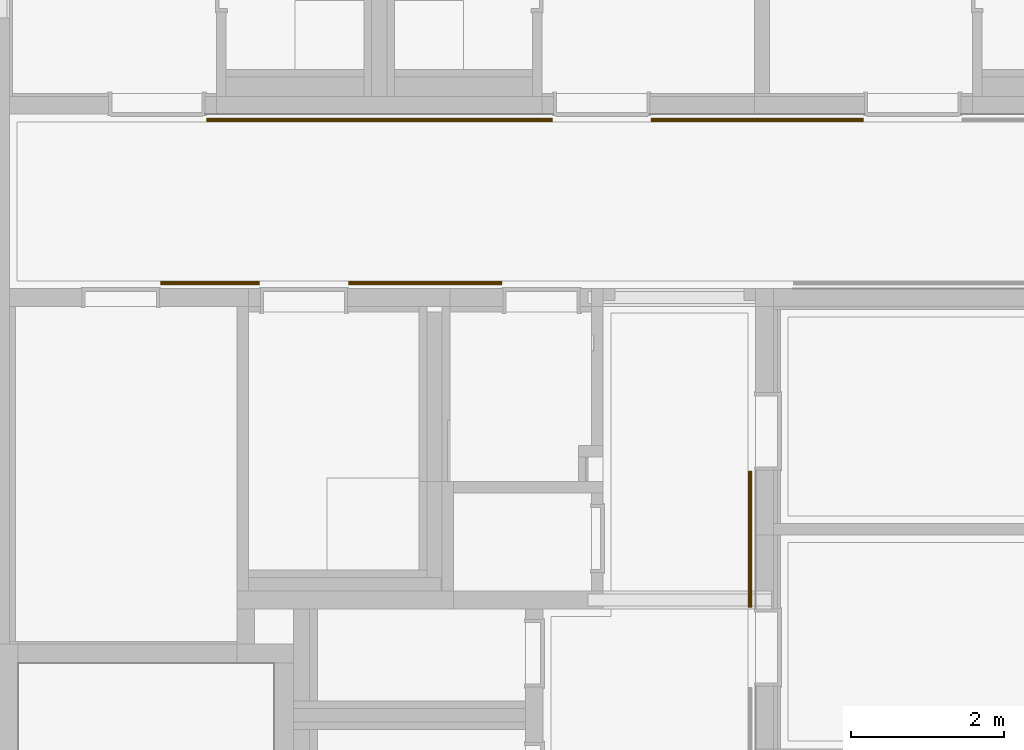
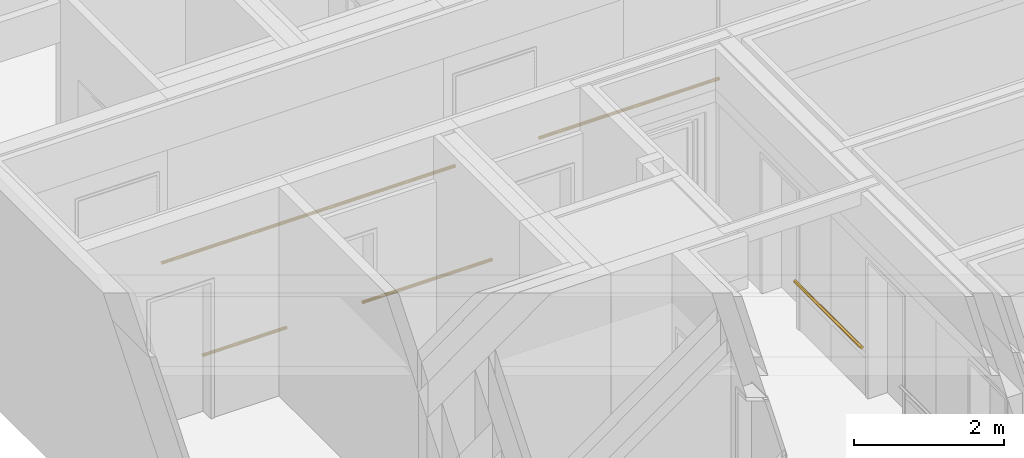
# One storey, part 194 of 207: 5 railings, 5 elements without a shape of their own.
"""IFC4 building model written with IfcOpenShell, lengths in metres."""

from ifc_helpers import new_model, entity, si_unit, converted_unit, derived_unit, frame, origin, place, context, subcontext, project, spatial, faceted_brep, material, element, aggregate, save


model = new_model("IFC4")

# Units and contexts
model_context = context("Model", 3, precision=1e-05, world=origin())
body_context = subcontext(model_context, "Body", "Model", "MODEL_VIEW")
ifc_project = project(units=[si_unit("LENGTHUNIT", "METRE"), si_unit("AREAUNIT", "SQUARE_METRE"), si_unit("VOLUMEUNIT", "CUBIC_METRE"), si_unit("MASSUNIT", "GRAM", prefix="KILO"), converted_unit("PLANEANGLEUNIT", "DEGREE", entity("IfcPlaneAngleMeasure", 0.0174532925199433), si_unit("PLANEANGLEUNIT", "RADIAN"), dimensions=[0, 0, 0, 0, 0, 0, 0]), derived_unit("THERMALTRANSMITTANCEUNIT", [(si_unit("POWERUNIT", "WATT"), 1), (si_unit("THERMODYNAMICTEMPERATUREUNIT", "KELVIN"), -1), (si_unit("LENGTHUNIT", "METRE"), -2)]), derived_unit("VOLUMETRICFLOWRATEUNIT", [(si_unit("LENGTHUNIT", "METRE"), 3), (converted_unit("TIMEUNIT", "hour", entity("IfcTimeMeasure", 3600.0), si_unit("TIMEUNIT", "SECOND"), dimensions=[0, 0, 1, 0, 0, 0, 0]), -1), (si_unit("LENGTHUNIT", "METRE"), -1)])], contexts=[model_context])

# Site, building, storey
site_placement = place(None, origin())
site = spatial("IfcSite", under=ifc_project, at=site_placement, Name="Psychiatrie Neubau Wunstorf", CompositionType="ELEMENT")
building_placement = place(site_placement, origin())
building = spatial("IfcBuilding", under=site, at=building_placement, Name="Neubau H2 Stationsgebäude", CompositionType="ELEMENT")
storey_placement = place(building_placement, frame((0.0, 0.0, -0.2)))
storey = spatial("IfcBuildingStorey", under=building, at=storey_placement, Name="H2 Ebene 0", CompositionType="ELEMENT", Elevation=-0.2)

# Assembly, railing
assembly_1_placement = place(storey_placement, frame((0.0, 0.0, 0.2)))
assembly_1 = element("IfcElementAssembly", 1, at=assembly_1_placement, inside=storey, Name="Geländer+Abstand", PredefinedType="NOTDEFINED")
ifc_material_1 = material(Name="Holz")
railing_1_placement = place(assembly_1_placement, frame((9.81750002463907, 17.6690132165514, 0.8)))
railing_1 = element("IfcRailing", 2, at=railing_1_placement, material=ifc_material_1, context=body_context, shape_type="Brep", body=[
    faceted_brep([(0.025, 1.78398678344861, 0.000103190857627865), (0.0293232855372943, 1.78398678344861, 0.000481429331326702), (0.0335152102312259, 1.78398678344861, 0.00160465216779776), (0.0374484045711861, 1.78398678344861, 0.00343873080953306), (0.0410033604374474, 1.78398678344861, 0.00592793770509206), (0.0440720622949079, 1.78398678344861, 0.00899663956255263), (0.0465612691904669, 1.78398678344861, 0.0125515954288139), (0.0483953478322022, 1.78398678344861, 0.0164847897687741), (0.0495185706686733, 1.78398678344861, 0.0206767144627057), (0.0498968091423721, 1.78398678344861, 0.025), (0.0495185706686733, 1.78398678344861, 0.0293232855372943), (0.0483953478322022, 1.78398678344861, 0.0335152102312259), (0.0465612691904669, 1.78398678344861, 0.0374484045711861), (0.0440720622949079, 1.78398678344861, 0.0410033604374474), (0.0410033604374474, 1.78398678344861, 0.0440720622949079), (0.0374484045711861, 1.78398678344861, 0.0465612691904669), (0.0335152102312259, 1.78398678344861, 0.0483953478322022), (0.0293232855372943, 1.78398678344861, 0.0495185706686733), (0.025, 1.78398678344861, 0.0498968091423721), (0.0206767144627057, 1.78398678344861, 0.0495185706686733), (0.0164847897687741, 1.78398678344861, 0.0483953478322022), (0.0125515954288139, 1.78398678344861, 0.0465612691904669), (0.00899663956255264, 1.78398678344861, 0.044072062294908), (0.00592793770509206, 1.78398678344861, 0.0410033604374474), (0.00343873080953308, 1.78398678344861, 0.0374484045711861), (0.00160465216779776, 1.78398678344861, 0.0335152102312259), (0.000481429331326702, 1.78398678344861, 0.0293232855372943), (0.000103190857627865, 1.78398678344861, 0.025), (0.000481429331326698, 1.78398678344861, 0.0206767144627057), (0.00160465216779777, 1.78398678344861, 0.0164847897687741), (0.00343873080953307, 1.78398678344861, 0.0125515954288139), (0.00592793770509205, 1.78398678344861, 0.00899663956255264), (0.00899663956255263, 1.78398678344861, 0.00592793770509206), (0.0125515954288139, 1.78398678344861, 0.00343873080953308), (0.0164847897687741, 1.78398678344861, 0.00160465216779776), (0.0206767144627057, 1.78398678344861, 0.000481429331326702), (0.025, 0.0, 0.000103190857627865), (0.0206767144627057, 0.0, 0.000481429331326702), (0.0164847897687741, 0.0, 0.00160465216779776), (0.0125515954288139, 0.0, 0.00343873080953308), (0.00899663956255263, 0.0, 0.00592793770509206), (0.00592793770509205, 0.0, 0.00899663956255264), (0.00343873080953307, 0.0, 0.0125515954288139), (0.00160465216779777, 0.0, 0.0164847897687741), (0.000481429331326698, 0.0, 0.0206767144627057), (0.000103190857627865, 0.0, 0.025), (0.000481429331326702, 0.0, 0.0293232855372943), (0.00160465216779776, 0.0, 0.0335152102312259), (0.00343873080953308, 0.0, 0.0374484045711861), (0.00592793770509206, 0.0, 0.0410033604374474), (0.00899663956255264, 0.0, 0.044072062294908), (0.0125515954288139, 0.0, 0.0465612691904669), (0.0164847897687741, 0.0, 0.0483953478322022), (0.0206767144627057, 0.0, 0.0495185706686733), (0.025, 0.0, 0.0498968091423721), (0.0293232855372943, 0.0, 0.0495185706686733), (0.0335152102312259, 0.0, 0.0483953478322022), (0.0374484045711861, 0.0, 0.0465612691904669), (0.0410033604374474, 0.0, 0.0440720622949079), (0.0440720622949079, 0.0, 0.0410033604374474), (0.0465612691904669, 0.0, 0.0374484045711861), (0.0483953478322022, 0.0, 0.0335152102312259), (0.0495185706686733, 0.0, 0.0293232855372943), (0.0498968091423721, 0.0, 0.025), (0.0495185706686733, 0.0, 0.0206767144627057), (0.0483953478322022, 0.0, 0.0164847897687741), (0.0465612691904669, 0.0, 0.0125515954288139), (0.0440720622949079, 0.0, 0.00899663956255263), (0.0410033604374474, 0.0, 0.00592793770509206), (0.0374484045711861, 0.0, 0.00343873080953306), (0.0335152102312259, 0.0, 0.00160465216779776), (0.0293232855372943, 0.0, 0.000481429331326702)], [[[0, 1, 2, 3, 4, 5, 6, 7, 8, 9, 10, 11, 12, 13, 14, 15, 16, 17, 18, 19, 20, 21, 22, 23, 24, 25, 26, 27, 28, 29, 30, 31, 32, 33, 34, 35]], [[36, 37, 38, 39, 40, 41, 42, 43, 44, 45, 46, 47, 48, 49, 50, 51, 52, 53, 54, 55, 56, 57, 58, 59, 60, 61, 62, 63, 64, 65, 66, 67, 68, 69, 70, 71]], [[1, 0, 36, 71]], [[2, 1, 71, 70]], [[3, 2, 70, 69]], [[4, 3, 69, 68]], [[5, 4, 68, 67]], [[6, 5, 67, 66]], [[7, 6, 66, 65]], [[8, 7, 65, 64]], [[9, 8, 64, 63]], [[10, 9, 63, 62]], [[11, 10, 62, 61]], [[12, 11, 61, 60]], [[13, 12, 60, 59]], [[14, 13, 59, 58]], [[15, 14, 58, 57]], [[16, 15, 57, 56]], [[17, 16, 56, 55]], [[18, 17, 55, 54]], [[19, 18, 54, 53]], [[20, 19, 53, 52]], [[21, 20, 52, 51]], [[22, 21, 51, 50]], [[23, 22, 50, 49]], [[24, 23, 49, 48]], [[25, 24, 48, 47]], [[26, 25, 47, 46]], [[27, 26, 46, 45]], [[28, 27, 45, 44]], [[29, 28, 44, 43]], [[30, 29, 43, 42]], [[31, 30, 42, 41]], [[32, 31, 41, 40]], [[33, 32, 40, 39]], [[34, 33, 39, 38]], [[35, 34, 38, 37]], [[0, 35, 37, 36]]], orient=[[False], [False], [False], [False], [False], [False], [False], [False], [False], [False], [False], [False], [False], [False], [False], [False], [False], [False], [False], [False], [False], [False], [False], [False], [False], [False], [False], [False], [False], [False], [False], [False], [False], [False], [False], [False], [False], [False]]),
])
aggregate(assembly_1, [railing_1])

assembly_2_placement = place(storey_placement, frame((0.0, 0.0, 0.2)))
assembly_2 = element("IfcElementAssembly", 3, at=assembly_2_placement, inside=storey, Name="Geländer+Abstand", PredefinedType="NOTDEFINED")
ifc_material_2 = material(Name="Holz")
railing_2_placement = place(assembly_2_placement, frame((2.74, 24.0175, 0.8)))
railing_2 = element("IfcRailing", 4, at=railing_2_placement, material=ifc_material_2, context=body_context, shape_type="Brep", body=[
    faceted_brep([(0.0, 0.0249999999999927, 0.000103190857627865), (0.0, 0.029323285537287, 0.000481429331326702), (0.0, 0.0335152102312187, 0.00160465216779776), (0.0, 0.0374484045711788, 0.00343873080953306), (0.0, 0.0410033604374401, 0.00592793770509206), (0.0, 0.0440720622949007, 0.00899663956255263), (0.0, 0.0465612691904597, 0.0125515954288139), (0.0, 0.048395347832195, 0.0164847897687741), (0.0, 0.049518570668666, 0.0206767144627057), (0.0, 0.0498968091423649, 0.025), (0.0, 0.049518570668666, 0.0293232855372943), (0.0, 0.048395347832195, 0.0335152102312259), (0.0, 0.0465612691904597, 0.0374484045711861), (0.0, 0.0440720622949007, 0.0410033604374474), (0.0, 0.0410033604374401, 0.0440720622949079), (0.0, 0.0374484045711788, 0.0465612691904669), (0.0, 0.0335152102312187, 0.0483953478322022), (0.0, 0.029323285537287, 0.0495185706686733), (0.0, 0.0249999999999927, 0.0498968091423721), (0.0, 0.0206767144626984, 0.0495185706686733), (0.0, 0.0164847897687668, 0.0483953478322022), (0.0, 0.0125515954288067, 0.0465612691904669), (0.0, 0.00899663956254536, 0.044072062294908), (0.0, 0.00592793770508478, 0.0410033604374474), (0.0, 0.0034387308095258, 0.0374484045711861), (0.0, 0.00160465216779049, 0.0335152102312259), (0.0, 0.000481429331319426, 0.0293232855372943), (0.0, 0.000103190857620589, 0.025), (0.0, 0.000481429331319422, 0.0206767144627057), (0.0, 0.00160465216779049, 0.0164847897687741), (0.0, 0.0034387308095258, 0.0125515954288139), (0.0, 0.00592793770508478, 0.00899663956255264), (0.0, 0.00899663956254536, 0.00592793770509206), (0.0, 0.0125515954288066, 0.00343873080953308), (0.0, 0.0164847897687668, 0.00160465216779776), (0.0, 0.0206767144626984, 0.000481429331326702), (4.52, 0.0249999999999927, 0.000103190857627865), (4.52, 0.0206767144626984, 0.000481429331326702), (4.52, 0.0164847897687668, 0.00160465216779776), (4.52, 0.0125515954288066, 0.00343873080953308), (4.52, 0.00899663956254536, 0.00592793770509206), (4.52, 0.00592793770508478, 0.00899663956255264), (4.52, 0.0034387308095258, 0.0125515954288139), (4.52, 0.00160465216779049, 0.0164847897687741), (4.52, 0.000481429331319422, 0.0206767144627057), (4.52, 0.000103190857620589, 0.025), (4.52, 0.000481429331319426, 0.0293232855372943), (4.52, 0.00160465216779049, 0.0335152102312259), (4.52, 0.0034387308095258, 0.0374484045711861), (4.52, 0.00592793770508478, 0.0410033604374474), (4.52, 0.00899663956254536, 0.044072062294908), (4.52, 0.0125515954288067, 0.0465612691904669), (4.52, 0.0164847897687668, 0.0483953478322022), (4.52, 0.0206767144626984, 0.0495185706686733), (4.52, 0.0249999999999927, 0.0498968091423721), (4.52, 0.029323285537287, 0.0495185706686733), (4.52, 0.0335152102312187, 0.0483953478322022), (4.52, 0.0374484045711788, 0.0465612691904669), (4.52, 0.0410033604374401, 0.0440720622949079), (4.52, 0.0440720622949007, 0.0410033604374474), (4.52, 0.0465612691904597, 0.0374484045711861), (4.52, 0.048395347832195, 0.0335152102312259), (4.52, 0.049518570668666, 0.0293232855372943), (4.52, 0.0498968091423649, 0.025), (4.52, 0.049518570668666, 0.0206767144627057), (4.52, 0.048395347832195, 0.0164847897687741), (4.52, 0.0465612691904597, 0.0125515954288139), (4.52, 0.0440720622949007, 0.00899663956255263), (4.52, 0.0410033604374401, 0.00592793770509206), (4.52, 0.0374484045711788, 0.00343873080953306), (4.52, 0.0335152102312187, 0.00160465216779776), (4.52, 0.029323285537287, 0.000481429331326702)], [[[0, 1, 2, 3, 4, 5, 6, 7, 8, 9, 10, 11, 12, 13, 14, 15, 16, 17, 18, 19, 20, 21, 22, 23, 24, 25, 26, 27, 28, 29, 30, 31, 32, 33, 34, 35]], [[36, 37, 38, 39, 40, 41, 42, 43, 44, 45, 46, 47, 48, 49, 50, 51, 52, 53, 54, 55, 56, 57, 58, 59, 60, 61, 62, 63, 64, 65, 66, 67, 68, 69, 70, 71]], [[1, 0, 36, 71]], [[2, 1, 71, 70]], [[3, 2, 70, 69]], [[4, 3, 69, 68]], [[5, 4, 68, 67]], [[6, 5, 67, 66]], [[7, 6, 66, 65]], [[8, 7, 65, 64]], [[9, 8, 64, 63]], [[10, 9, 63, 62]], [[11, 10, 62, 61]], [[12, 11, 61, 60]], [[13, 12, 60, 59]], [[14, 13, 59, 58]], [[15, 14, 58, 57]], [[16, 15, 57, 56]], [[17, 16, 56, 55]], [[18, 17, 55, 54]], [[19, 18, 54, 53]], [[20, 19, 53, 52]], [[21, 20, 52, 51]], [[22, 21, 51, 50]], [[23, 22, 50, 49]], [[24, 23, 49, 48]], [[25, 24, 48, 47]], [[26, 25, 47, 46]], [[27, 26, 46, 45]], [[28, 27, 45, 44]], [[29, 28, 44, 43]], [[30, 29, 43, 42]], [[31, 30, 42, 41]], [[32, 31, 41, 40]], [[33, 32, 40, 39]], [[34, 33, 39, 38]], [[35, 34, 38, 37]], [[0, 35, 37, 36]]], orient=[[False], [False], [False], [False], [False], [False], [False], [False], [False], [False], [False], [False], [False], [False], [False], [False], [False], [False], [False], [False], [False], [False], [False], [False], [False], [False], [False], [False], [False], [False], [False], [False], [False], [False], [False], [False], [False], [False]]),
])
aggregate(assembly_2, [railing_2])

assembly_3_placement = place(storey_placement, frame((0.0, 0.0, 0.2)))
assembly_3 = element("IfcElementAssembly", 5, at=assembly_3_placement, inside=storey, Name="Geländer+Abstand", PredefinedType="NOTDEFINED")
ifc_material_3 = material(Name="Holz")
railing_3_placement = place(assembly_3_placement, frame((8.55, 24.0175, 0.8)))
railing_3 = element("IfcRailing", 6, at=railing_3_placement, material=ifc_material_3, context=body_context, shape_type="Brep", body=[
    faceted_brep([(0.0, 0.0249999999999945, 0.000103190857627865), (0.0, 0.0293232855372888, 0.000481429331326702), (0.0, 0.0335152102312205, 0.00160465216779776), (0.0, 0.0374484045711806, 0.00343873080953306), (0.0, 0.0410033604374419, 0.00592793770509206), (0.0, 0.0440720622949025, 0.00899663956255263), (0.0, 0.0465612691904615, 0.0125515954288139), (0.0, 0.0483953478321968, 0.0164847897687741), (0.0, 0.0495185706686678, 0.0206767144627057), (0.0, 0.0498968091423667, 0.025), (0.0, 0.0495185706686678, 0.0293232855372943), (0.0, 0.0483953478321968, 0.0335152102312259), (0.0, 0.0465612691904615, 0.0374484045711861), (0.0, 0.0440720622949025, 0.0410033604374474), (0.0, 0.0410033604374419, 0.0440720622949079), (0.0, 0.0374484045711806, 0.0465612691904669), (0.0, 0.0335152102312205, 0.0483953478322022), (0.0, 0.0293232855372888, 0.0495185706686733), (0.0, 0.0249999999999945, 0.0498968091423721), (0.0, 0.0206767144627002, 0.0495185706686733), (0.0, 0.0164847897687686, 0.0483953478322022), (0.0, 0.0125515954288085, 0.0465612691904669), (0.0, 0.00899663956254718, 0.044072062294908), (0.0, 0.0059279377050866, 0.0410033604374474), (0.0, 0.00343873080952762, 0.0374484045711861), (0.0, 0.00160465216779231, 0.0335152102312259), (0.0, 0.000481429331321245, 0.0293232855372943), (0.0, 0.000103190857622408, 0.025), (0.0, 0.000481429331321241, 0.0206767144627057), (0.0, 0.00160465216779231, 0.0164847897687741), (0.0, 0.00343873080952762, 0.0125515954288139), (0.0, 0.0059279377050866, 0.00899663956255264), (0.0, 0.00899663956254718, 0.00592793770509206), (0.0, 0.0125515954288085, 0.00343873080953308), (0.0, 0.0164847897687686, 0.00160465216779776), (0.0, 0.0206767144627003, 0.000481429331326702), (2.775, 0.0249999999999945, 0.000103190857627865), (2.775, 0.0206767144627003, 0.000481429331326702), (2.775, 0.0164847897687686, 0.00160465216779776), (2.775, 0.0125515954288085, 0.00343873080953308), (2.775, 0.00899663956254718, 0.00592793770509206), (2.775, 0.0059279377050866, 0.00899663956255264), (2.775, 0.00343873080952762, 0.0125515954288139), (2.775, 0.00160465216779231, 0.0164847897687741), (2.775, 0.000481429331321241, 0.0206767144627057), (2.775, 0.000103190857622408, 0.025), (2.775, 0.000481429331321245, 0.0293232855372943), (2.775, 0.00160465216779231, 0.0335152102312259), (2.775, 0.00343873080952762, 0.0374484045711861), (2.775, 0.0059279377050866, 0.0410033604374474), (2.775, 0.00899663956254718, 0.044072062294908), (2.775, 0.0125515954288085, 0.0465612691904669), (2.775, 0.0164847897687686, 0.0483953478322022), (2.775, 0.0206767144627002, 0.0495185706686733), (2.775, 0.0249999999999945, 0.0498968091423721), (2.775, 0.0293232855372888, 0.0495185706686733), (2.775, 0.0335152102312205, 0.0483953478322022), (2.775, 0.0374484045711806, 0.0465612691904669), (2.775, 0.0410033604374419, 0.0440720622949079), (2.775, 0.0440720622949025, 0.0410033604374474), (2.775, 0.0465612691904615, 0.0374484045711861), (2.775, 0.0483953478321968, 0.0335152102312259), (2.775, 0.0495185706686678, 0.0293232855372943), (2.775, 0.0498968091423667, 0.025), (2.775, 0.0495185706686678, 0.0206767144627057), (2.775, 0.0483953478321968, 0.0164847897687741), (2.775, 0.0465612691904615, 0.0125515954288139), (2.775, 0.0440720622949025, 0.00899663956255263), (2.775, 0.0410033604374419, 0.00592793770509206), (2.775, 0.0374484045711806, 0.00343873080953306), (2.775, 0.0335152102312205, 0.00160465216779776), (2.775, 0.0293232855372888, 0.000481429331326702)], [[[0, 1, 2, 3, 4, 5, 6, 7, 8, 9, 10, 11, 12, 13, 14, 15, 16, 17, 18, 19, 20, 21, 22, 23, 24, 25, 26, 27, 28, 29, 30, 31, 32, 33, 34, 35]], [[36, 37, 38, 39, 40, 41, 42, 43, 44, 45, 46, 47, 48, 49, 50, 51, 52, 53, 54, 55, 56, 57, 58, 59, 60, 61, 62, 63, 64, 65, 66, 67, 68, 69, 70, 71]], [[1, 0, 36, 71]], [[2, 1, 71, 70]], [[3, 2, 70, 69]], [[4, 3, 69, 68]], [[5, 4, 68, 67]], [[6, 5, 67, 66]], [[7, 6, 66, 65]], [[8, 7, 65, 64]], [[9, 8, 64, 63]], [[10, 9, 63, 62]], [[11, 10, 62, 61]], [[12, 11, 61, 60]], [[13, 12, 60, 59]], [[14, 13, 59, 58]], [[15, 14, 58, 57]], [[16, 15, 57, 56]], [[17, 16, 56, 55]], [[18, 17, 55, 54]], [[19, 18, 54, 53]], [[20, 19, 53, 52]], [[21, 20, 52, 51]], [[22, 21, 51, 50]], [[23, 22, 50, 49]], [[24, 23, 49, 48]], [[25, 24, 48, 47]], [[26, 25, 47, 46]], [[27, 26, 46, 45]], [[28, 27, 45, 44]], [[29, 28, 44, 43]], [[30, 29, 43, 42]], [[31, 30, 42, 41]], [[32, 31, 41, 40]], [[33, 32, 40, 39]], [[34, 33, 39, 38]], [[35, 34, 38, 37]], [[0, 35, 37, 36]]], orient=[[False], [False], [False], [False], [False], [False], [False], [False], [False], [False], [False], [False], [False], [False], [False], [False], [False], [False], [False], [False], [False], [False], [False], [False], [False], [False], [False], [False], [False], [False], [False], [False], [False], [False], [False], [False], [False], [False]]),
])
aggregate(assembly_3, [railing_3])

assembly_4_placement = place(storey_placement, frame((0.0, 0.0, 0.2)))
assembly_4 = element("IfcElementAssembly", 7, at=assembly_4_placement, inside=storey, Name="Geländer+Abstand", PredefinedType="NOTDEFINED")
ifc_material_4 = material(Name="Holz")
railing_4_placement = place(assembly_4_placement, frame((2.14245468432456, 21.886, 0.8)))
railing_4 = element("IfcRailing", 8, at=railing_4_placement, material=ifc_material_4, context=body_context, shape_type="Brep", body=[
    faceted_brep([(1.29255154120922, 0.025, 0.0498968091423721), (1.29255154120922, 0.0293232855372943, 0.0495185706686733), (1.29255154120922, 0.0335152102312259, 0.0483953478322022), (1.29255154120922, 0.0374484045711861, 0.0465612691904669), (1.29255154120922, 0.0410033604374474, 0.0440720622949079), (1.29255154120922, 0.0440720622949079, 0.0410033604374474), (1.29255154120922, 0.0465612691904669, 0.0374484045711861), (1.29255154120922, 0.0483953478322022, 0.0335152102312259), (1.29255154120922, 0.0495185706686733, 0.0293232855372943), (1.29255154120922, 0.0498968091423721, 0.025), (1.29255154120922, 0.0495185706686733, 0.0206767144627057), (1.29255154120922, 0.0483953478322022, 0.0164847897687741), (1.29255154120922, 0.0465612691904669, 0.0125515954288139), (1.29255154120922, 0.0440720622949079, 0.00899663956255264), (1.29255154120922, 0.0410033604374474, 0.00592793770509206), (1.29255154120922, 0.0374484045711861, 0.00343873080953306), (1.29255154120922, 0.0335152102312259, 0.00160465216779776), (1.29255154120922, 0.0293232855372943, 0.000481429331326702), (1.29255154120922, 0.025, 0.000103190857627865), (1.29255154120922, 0.0206767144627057, 0.000481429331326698), (1.29255154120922, 0.0164847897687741, 0.00160465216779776), (1.29255154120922, 0.0125515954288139, 0.00343873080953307), (1.29255154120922, 0.00899663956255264, 0.00592793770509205), (1.29255154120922, 0.00592793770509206, 0.00899663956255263), (1.29255154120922, 0.00343873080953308, 0.0125515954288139), (1.29255154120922, 0.00160465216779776, 0.0164847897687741), (1.29255154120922, 0.000481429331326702, 0.0206767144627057), (1.29255154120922, 0.000103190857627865, 0.025), (1.29255154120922, 0.000481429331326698, 0.0293232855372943), (1.29255154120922, 0.00160465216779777, 0.0335152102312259), (1.29255154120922, 0.00343873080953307, 0.0374484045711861), (1.29255154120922, 0.00592793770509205, 0.0410033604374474), (1.29255154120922, 0.00899663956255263, 0.0440720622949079), (1.29255154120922, 0.0125515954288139, 0.0465612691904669), (1.29255154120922, 0.0164847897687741, 0.0483953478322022), (1.29255154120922, 0.0206767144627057, 0.0495185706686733), (0.0, 0.025, 0.0498968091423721), (0.0, 0.0206767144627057, 0.0495185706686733), (0.0, 0.0164847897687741, 0.0483953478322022), (0.0, 0.0125515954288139, 0.0465612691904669), (0.0, 0.00899663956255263, 0.0440720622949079), (0.0, 0.00592793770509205, 0.0410033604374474), (0.0, 0.00343873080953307, 0.0374484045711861), (0.0, 0.00160465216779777, 0.0335152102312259), (0.0, 0.000481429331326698, 0.0293232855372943), (0.0, 0.000103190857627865, 0.025), (0.0, 0.000481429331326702, 0.0206767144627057), (0.0, 0.00160465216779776, 0.0164847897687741), (0.0, 0.00343873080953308, 0.0125515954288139), (0.0, 0.00592793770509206, 0.00899663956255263), (0.0, 0.00899663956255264, 0.00592793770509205), (0.0, 0.0125515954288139, 0.00343873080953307), (0.0, 0.0164847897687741, 0.00160465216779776), (0.0, 0.0206767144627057, 0.000481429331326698), (0.0, 0.025, 0.000103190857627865), (0.0, 0.0293232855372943, 0.000481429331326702), (0.0, 0.0335152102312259, 0.00160465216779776), (0.0, 0.0374484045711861, 0.00343873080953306), (0.0, 0.0410033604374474, 0.00592793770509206), (0.0, 0.0440720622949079, 0.00899663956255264), (0.0, 0.0465612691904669, 0.0125515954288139), (0.0, 0.0483953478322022, 0.0164847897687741), (0.0, 0.0495185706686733, 0.0206767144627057), (0.0, 0.0498968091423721, 0.025), (0.0, 0.0495185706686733, 0.0293232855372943), (0.0, 0.0483953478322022, 0.0335152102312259), (0.0, 0.0465612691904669, 0.0374484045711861), (0.0, 0.0440720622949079, 0.0410033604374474), (0.0, 0.0410033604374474, 0.0440720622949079), (0.0, 0.0374484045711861, 0.0465612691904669), (0.0, 0.0335152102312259, 0.0483953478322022), (0.0, 0.0293232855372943, 0.0495185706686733)], [[[0, 1, 2, 3, 4, 5, 6, 7, 8, 9, 10, 11, 12, 13, 14, 15, 16, 17, 18, 19, 20, 21, 22, 23, 24, 25, 26, 27, 28, 29, 30, 31, 32, 33, 34, 35]], [[36, 37, 38, 39, 40, 41, 42, 43, 44, 45, 46, 47, 48, 49, 50, 51, 52, 53, 54, 55, 56, 57, 58, 59, 60, 61, 62, 63, 64, 65, 66, 67, 68, 69, 70, 71]], [[1, 0, 36, 71]], [[2, 1, 71, 70]], [[3, 2, 70, 69]], [[4, 3, 69, 68]], [[5, 4, 68, 67]], [[6, 5, 67, 66]], [[7, 6, 66, 65]], [[8, 7, 65, 64]], [[9, 8, 64, 63]], [[10, 9, 63, 62]], [[11, 10, 62, 61]], [[12, 11, 61, 60]], [[13, 12, 60, 59]], [[14, 13, 59, 58]], [[15, 14, 58, 57]], [[16, 15, 57, 56]], [[17, 16, 56, 55]], [[18, 17, 55, 54]], [[19, 18, 54, 53]], [[20, 19, 53, 52]], [[21, 20, 52, 51]], [[22, 21, 51, 50]], [[23, 22, 50, 49]], [[24, 23, 49, 48]], [[25, 24, 48, 47]], [[26, 25, 47, 46]], [[27, 26, 46, 45]], [[28, 27, 45, 44]], [[29, 28, 44, 43]], [[30, 29, 43, 42]], [[31, 30, 42, 41]], [[32, 31, 41, 40]], [[33, 32, 40, 39]], [[34, 33, 39, 38]], [[35, 34, 38, 37]], [[0, 35, 37, 36]]], orient=[[False], [False], [False], [False], [False], [False], [False], [False], [False], [False], [False], [False], [False], [False], [False], [False], [False], [False], [False], [False], [False], [False], [False], [False], [False], [False], [False], [False], [False], [False], [False], [False], [False], [False], [False], [False], [False], [False]]),
])
aggregate(assembly_4, [railing_4])

assembly_5_placement = place(storey_placement, frame((0.0, 0.0, 0.2)))
assembly_5 = element("IfcElementAssembly", 9, at=assembly_5_placement, inside=storey, Name="Geländer+Abstand", PredefinedType="NOTDEFINED")
ifc_material_5 = material(Name="Holz")
railing_5_placement = place(assembly_5_placement, frame((4.60000622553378, 21.886, 0.8)))
railing_5 = element("IfcRailing", 10, at=railing_5_placement, material=ifc_material_5, context=body_context, shape_type="Brep", body=[
    faceted_brep([(1.99998727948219, 0.025, 0.0498968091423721), (1.99998727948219, 0.0293232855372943, 0.0495185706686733), (1.99998727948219, 0.0335152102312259, 0.0483953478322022), (1.99998727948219, 0.0374484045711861, 0.0465612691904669), (1.99998727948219, 0.0410033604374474, 0.0440720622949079), (1.99998727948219, 0.0440720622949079, 0.0410033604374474), (1.99998727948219, 0.0465612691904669, 0.0374484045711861), (1.99998727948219, 0.0483953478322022, 0.0335152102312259), (1.99998727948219, 0.0495185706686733, 0.0293232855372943), (1.99998727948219, 0.0498968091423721, 0.025), (1.99998727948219, 0.0495185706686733, 0.0206767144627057), (1.99998727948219, 0.0483953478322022, 0.0164847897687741), (1.99998727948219, 0.0465612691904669, 0.0125515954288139), (1.99998727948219, 0.0440720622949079, 0.00899663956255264), (1.99998727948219, 0.0410033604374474, 0.00592793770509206), (1.99998727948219, 0.0374484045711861, 0.00343873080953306), (1.99998727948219, 0.0335152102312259, 0.00160465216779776), (1.99998727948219, 0.0293232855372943, 0.000481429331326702), (1.99998727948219, 0.025, 0.000103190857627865), (1.99998727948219, 0.0206767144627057, 0.000481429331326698), (1.99998727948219, 0.0164847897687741, 0.00160465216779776), (1.99998727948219, 0.0125515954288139, 0.00343873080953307), (1.99998727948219, 0.00899663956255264, 0.00592793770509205), (1.99998727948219, 0.00592793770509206, 0.00899663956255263), (1.99998727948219, 0.00343873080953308, 0.0125515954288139), (1.99998727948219, 0.00160465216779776, 0.0164847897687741), (1.99998727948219, 0.000481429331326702, 0.0206767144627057), (1.99998727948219, 0.000103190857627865, 0.025), (1.99998727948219, 0.000481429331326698, 0.0293232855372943), (1.99998727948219, 0.00160465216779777, 0.0335152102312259), (1.99998727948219, 0.00343873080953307, 0.0374484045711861), (1.99998727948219, 0.00592793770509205, 0.0410033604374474), (1.99998727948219, 0.00899663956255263, 0.0440720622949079), (1.99998727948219, 0.0125515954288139, 0.0465612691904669), (1.99998727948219, 0.0164847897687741, 0.0483953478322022), (1.99998727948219, 0.0206767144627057, 0.0495185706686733), (0.0, 0.025, 0.0498968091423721), (0.0, 0.0206767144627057, 0.0495185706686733), (0.0, 0.0164847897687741, 0.0483953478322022), (0.0, 0.0125515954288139, 0.0465612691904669), (0.0, 0.00899663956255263, 0.0440720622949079), (0.0, 0.00592793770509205, 0.0410033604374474), (0.0, 0.00343873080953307, 0.0374484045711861), (0.0, 0.00160465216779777, 0.0335152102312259), (0.0, 0.000481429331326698, 0.0293232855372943), (0.0, 0.000103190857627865, 0.025), (0.0, 0.000481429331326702, 0.0206767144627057), (0.0, 0.00160465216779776, 0.0164847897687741), (0.0, 0.00343873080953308, 0.0125515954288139), (0.0, 0.00592793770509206, 0.00899663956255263), (0.0, 0.00899663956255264, 0.00592793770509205), (0.0, 0.0125515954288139, 0.00343873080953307), (0.0, 0.0164847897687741, 0.00160465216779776), (0.0, 0.0206767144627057, 0.000481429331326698), (0.0, 0.025, 0.000103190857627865), (0.0, 0.0293232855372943, 0.000481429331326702), (0.0, 0.0335152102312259, 0.00160465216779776), (0.0, 0.0374484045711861, 0.00343873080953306), (0.0, 0.0410033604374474, 0.00592793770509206), (0.0, 0.0440720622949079, 0.00899663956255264), (0.0, 0.0465612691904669, 0.0125515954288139), (0.0, 0.0483953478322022, 0.0164847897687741), (0.0, 0.0495185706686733, 0.0206767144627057), (0.0, 0.0498968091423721, 0.025), (0.0, 0.0495185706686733, 0.0293232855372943), (0.0, 0.0483953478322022, 0.0335152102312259), (0.0, 0.0465612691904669, 0.0374484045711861), (0.0, 0.0440720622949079, 0.0410033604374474), (0.0, 0.0410033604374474, 0.0440720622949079), (0.0, 0.0374484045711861, 0.0465612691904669), (0.0, 0.0335152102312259, 0.0483953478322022), (0.0, 0.0293232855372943, 0.0495185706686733)], [[[0, 1, 2, 3, 4, 5, 6, 7, 8, 9, 10, 11, 12, 13, 14, 15, 16, 17, 18, 19, 20, 21, 22, 23, 24, 25, 26, 27, 28, 29, 30, 31, 32, 33, 34, 35]], [[36, 37, 38, 39, 40, 41, 42, 43, 44, 45, 46, 47, 48, 49, 50, 51, 52, 53, 54, 55, 56, 57, 58, 59, 60, 61, 62, 63, 64, 65, 66, 67, 68, 69, 70, 71]], [[1, 0, 36, 71]], [[2, 1, 71, 70]], [[3, 2, 70, 69]], [[4, 3, 69, 68]], [[5, 4, 68, 67]], [[6, 5, 67, 66]], [[7, 6, 66, 65]], [[8, 7, 65, 64]], [[9, 8, 64, 63]], [[10, 9, 63, 62]], [[11, 10, 62, 61]], [[12, 11, 61, 60]], [[13, 12, 60, 59]], [[14, 13, 59, 58]], [[15, 14, 58, 57]], [[16, 15, 57, 56]], [[17, 16, 56, 55]], [[18, 17, 55, 54]], [[19, 18, 54, 53]], [[20, 19, 53, 52]], [[21, 20, 52, 51]], [[22, 21, 51, 50]], [[23, 22, 50, 49]], [[24, 23, 49, 48]], [[25, 24, 48, 47]], [[26, 25, 47, 46]], [[27, 26, 46, 45]], [[28, 27, 45, 44]], [[29, 28, 44, 43]], [[30, 29, 43, 42]], [[31, 30, 42, 41]], [[32, 31, 41, 40]], [[33, 32, 40, 39]], [[34, 33, 39, 38]], [[35, 34, 38, 37]], [[0, 35, 37, 36]]], orient=[[False], [False], [False], [False], [False], [False], [False], [False], [False], [False], [False], [False], [False], [False], [False], [False], [False], [False], [False], [False], [False], [False], [False], [False], [False], [False], [False], [False], [False], [False], [False], [False], [False], [False], [False], [False], [False], [False]]),
])
aggregate(assembly_5, [railing_5])

save(model, "model.ifc")
